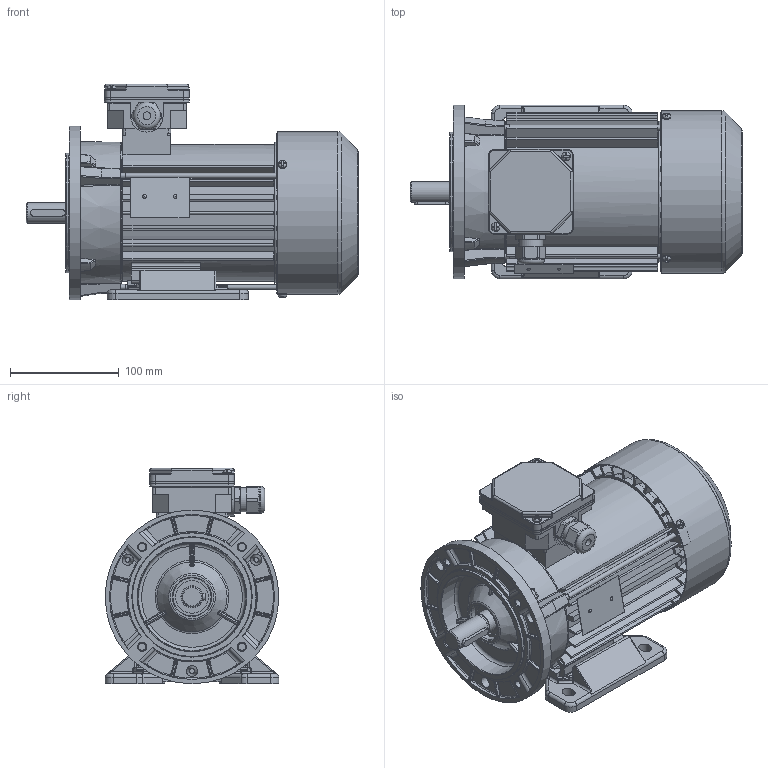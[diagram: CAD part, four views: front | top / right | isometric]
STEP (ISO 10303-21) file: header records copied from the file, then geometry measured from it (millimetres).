
FILE_DESCRIPTION(/* description */ ('Unknown'),/* implementation_level */ '2;1');
FILE_NAME(/* name */ '2SIEL80-8A1',/* time_stamp */ '2021-04-12T15:00:58+02:00',/* author */ ('Unknown'),/* organization */ ('Unknown'),/* preprocessor_version */ 'ST-DEVELOPER v16.7',/* originating_system */ 'Solid Edge',/* authorisation */ 'Unknown');
FILE_SCHEMA (('AUTOMOTIVE_DESIGN {1 0 10303 214 3 1 1}'));
Products named in the file (1): 2SIEL80-8A1
Bounding box: 305.79 x 160 x 198.5 mm (x, y, z)
Volume: 1156357.9 mm3; surface area: 590793.5 mm2
Topology: 4 solids, 4 shells, 2954 faces, 8144 edges, 5182 vertices
Faces by surface type: plane 1301, cylinder 910, bspline 406, torus 172, cone 139, sphere 26
Full cylindrical faces by diameter (mm): 2 x2, 2.4 x2, 3 x1, 3.7 x8, 4 x3, 4.2 x3, 4.5 x1, 4.6 x3, 4.8 x2, 5 x5, 5.5 x3, 6.5 x4, 6.8 x4, 7 x1, 8 x9, 18.598 x1, 18.998 x1, 19.298 x1, 19.498 x1, 19.898 x1, 19.948 x1, 19.998 x2, 20.4 x2, 22.3 x1, 25 x1, 25.497 x1, 25.647 x1, 25.997 x3, 26.047 x1, 28.799 x4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
Entity records: 118071 total; most frequent: CARTESIAN_POINT 27679, ORIENTED_EDGE 15454, DIRECTION 13986, EDGE_CURVE 7727, AXIS2_PLACEMENT_3D 5183, VERTEX_POINT 5047, LINE 3620, VECTOR 3620
